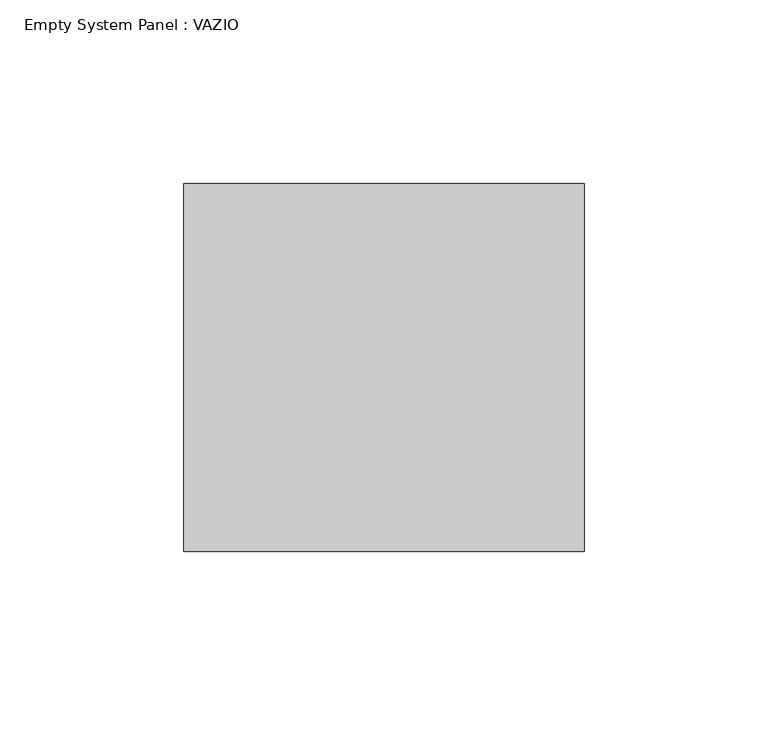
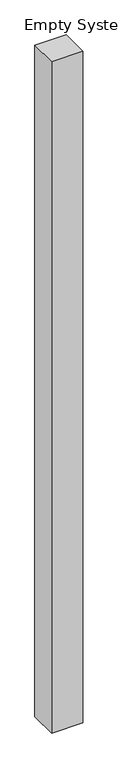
"""IFC4 building model written with IfcOpenShell, lengths in millimetres: plate geometry, Empty System Panel : VAZIO."""

from ifc_helpers import new_model, si_unit, origin, origin_with_axes, place, context, project, spatial, polyline, outline, extrude, source, transform, mapped, element, save


def empty_system_panel_vazio_f27795c1(model_context):
    return source(origin(), model_context, "Body", "SweptSolid", [
        extrude(outline(polyline([(54.3902439, -50.0), (-54.3902439, -50.0), (-54.3902439, 50.0), (54.3902439, 50.0), (54.3902439, -50.0)])), origin_with_axes(), (0.0, 0.0, 1.0), 2463.2063533),
    ])


if __name__ == "__main__":
    model = new_model("IFC4")
    model_context = context("Model", 3, world=origin())
    ifc_project = project(units=[si_unit("LENGTHUNIT", "METRE", prefix="MILLI")], contexts=[model_context])
    site = spatial("IfcSite", under=ifc_project)
    building = spatial("IfcBuilding", under=site)
    placement = place(None, origin())
    empty_system_panel_vazio_shape = empty_system_panel_vazio_f27795c1(model_context)
    element("IfcPlate", 1, ObjectType="Empty System Panel : VAZIO", at=placement, inside=building, context=model_context, shape_type="MappedRepresentation", body=[
        mapped(empty_system_panel_vazio_shape, transform((0.0, 0.0, 0.0), x_axis=(1.0, 0.0, 0.0), y_axis=(0.0, 1.0, 0.0), z_axis=(0.0, 0.0, 1.0))),
    ])
    save(model, "model.ifc")
